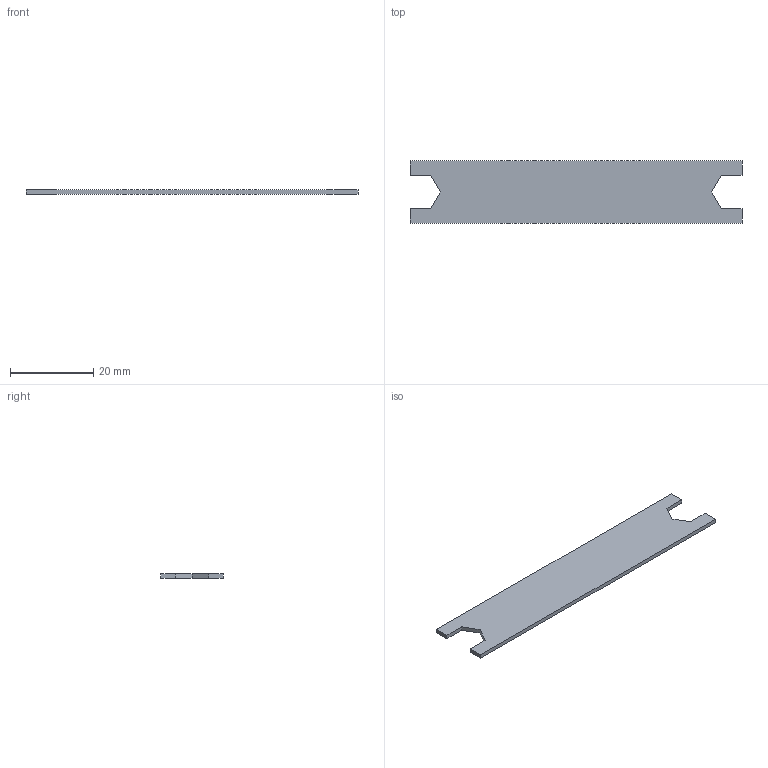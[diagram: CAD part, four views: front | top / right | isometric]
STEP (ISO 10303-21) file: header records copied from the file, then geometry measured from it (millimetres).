
FILE_DESCRIPTION( ( 'STEP AP203' ), '1' );
FILE_NAME( 'C:/Temp/Ganter_Step_05_03_2020/data/3_8/gn2424_1/Open-end wrench GN 2424.1-8-8.stp', '2020-03-12T15:40:40', ( 'License CC BY-ND 4.0' ), ( 'CADENAS' ), ' ', 'PARTsolutions', ' ' );
FILE_SCHEMA( ( 'CONFIG_CONTROL_DESIGN' ) );
Length unit declared in the file: millimetre
Products named in the file (1): _Open-end wrench GN 2424.1-8-8
Bounding box: 80 x 15 x 1 mm (x, y, z)
Volume: 1101.5 mm3; surface area: 2415.5 mm2
Topology: 1 solids, 1 shells, 16 faces, 42 edges, 28 vertices
Faces by surface type: plane 16
Entity records: 530 total; most frequent: CARTESIAN_POINT 87, ORIENTED_EDGE 84, DIRECTION 76, EDGE_CURVE 42, LINE 42, VECTOR 42, VERTEX_POINT 28, AXIS2_PLACEMENT_3D 17
